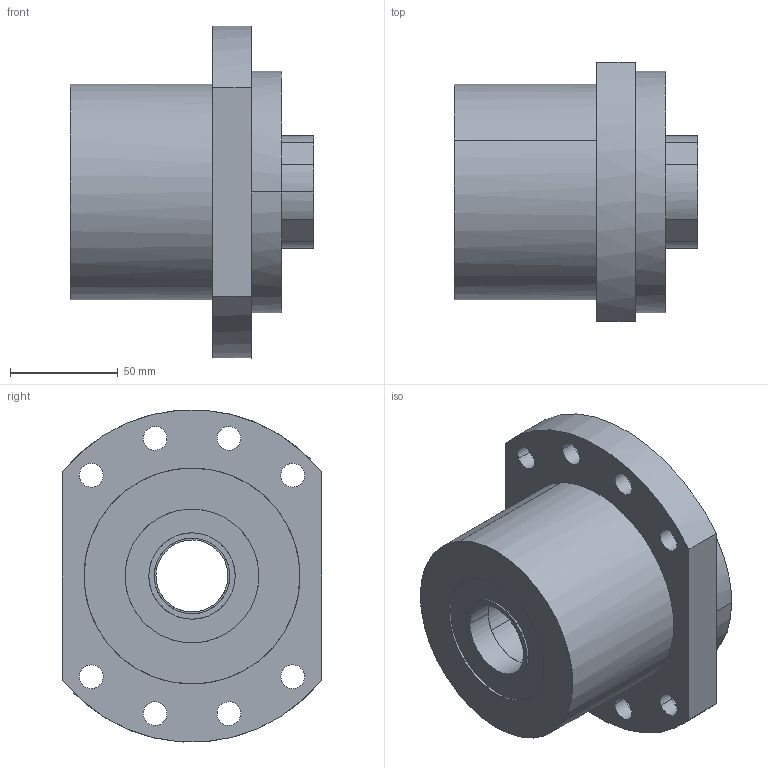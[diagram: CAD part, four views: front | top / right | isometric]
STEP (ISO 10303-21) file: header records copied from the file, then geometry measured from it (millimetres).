
FILE_DESCRIPTION(('CATIA V5 STEP Exchange'),'2;1');
FILE_NAME('D:\서포트 완성도면\FK\FK35DFF.stp','2014-03-26T10:18:50+00:00',('none'),('none'),'CATIA Version 5 Release 18 GA (IN-10)','CATIA V5 STEP AP203','none');
FILE_SCHEMA(('CONFIG_CONTROL_DESIGN'));
Length unit declared in the file: millimetre
Products named in the file (1): FK35DFF
Assembly tree (4 placements, depth 2):
  FK35DFF
    #56
    #3390  x2
    #3666
Bounding box: 113 x 120 x 153.78 mm (x, y, z)
Volume: 840008.2 mm3; surface area: 96858.5 mm2
Topology: 4 solids, 4 shells, 92 faces, 212 edges, 142 vertices
Faces by surface type: cylinder 64, plane 28
Entity records: 4181 total; most frequent: CARTESIAN_POINT 2281, ORIENTED_EDGE 400, DIRECTION 271, EDGE_CURVE 200, VERTEX_POINT 134, EDGE_LOOP 122, AXIS2_PLACEMENT_3D 108, B_SPLINE_CURVE_WITH_KNOTS 95
